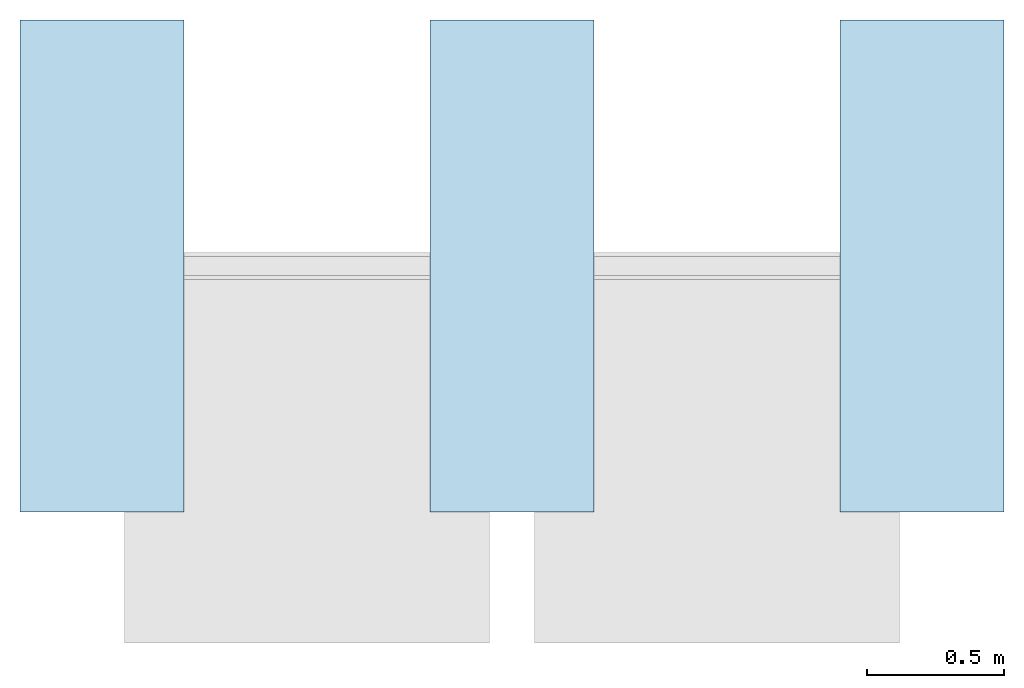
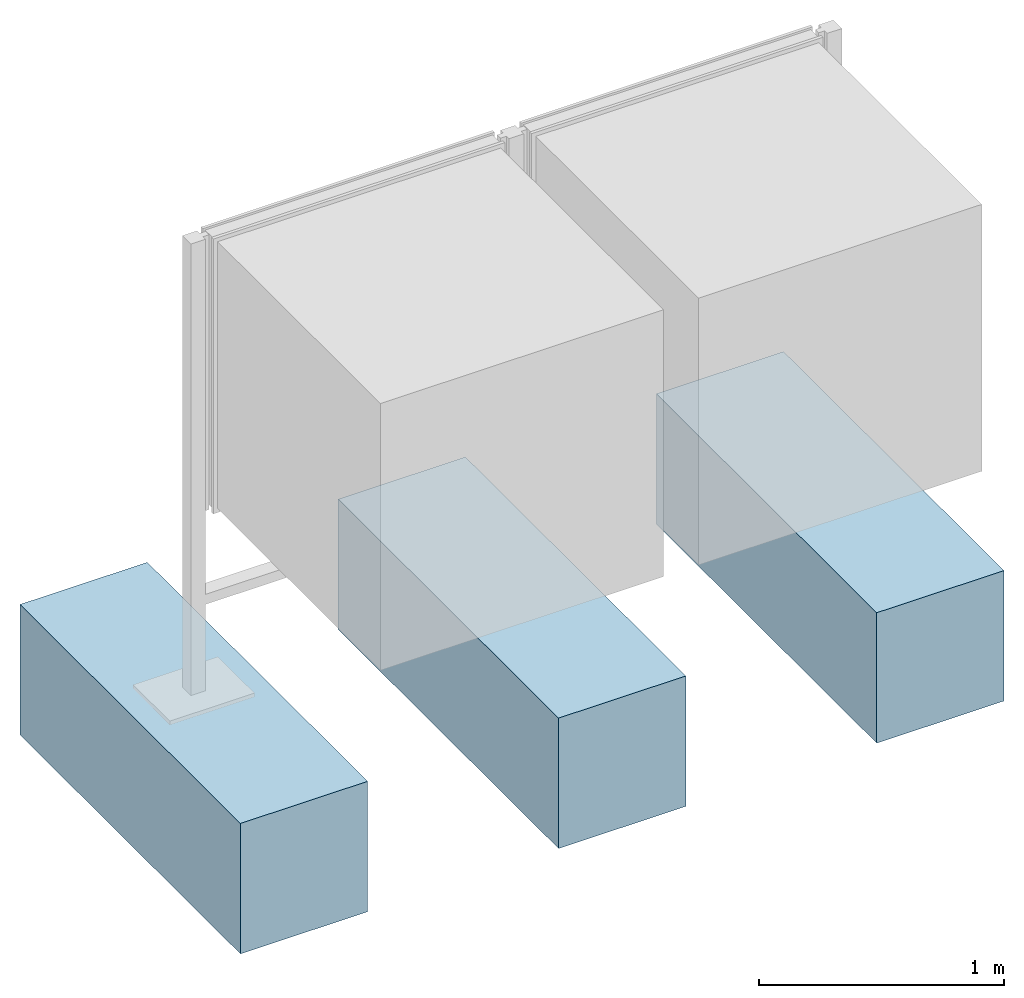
# One storey, incomplete: 3 slabs.
"""IFC4 building model written with IfcOpenShell, lengths in metres."""

from ifc_helpers import new_model, entity, si_unit, converted_unit, direction, frame, frame_2d, origin, origin_2d_with_axis, place, context, subcontext, project, spatial, rectangle, extrude, material, type_object, element, save


model = new_model("IFC4")

# Units and contexts
model_context = context("Model", 3, precision=1e-05, world=origin(), true_north=direction((6.123031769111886e-17, 1.0)))
body_context = subcontext(model_context, "Body", "Model", "MODEL_VIEW")
ifc_project = project(units=[si_unit("LENGTHUNIT", "METRE"), converted_unit("PLANEANGLEUNIT", "DEGREE", entity("IfcPlaneAngleMeasure", 0.017453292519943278), si_unit("PLANEANGLEUNIT", "RADIAN"), dimensions=[0, 0, 0, 0, 0, 0, 0]), si_unit("AREAUNIT", "SQUARE_METRE")], contexts=[model_context])

# Site, building, storey
site_placement = place(None, origin())
site = spatial("IfcSite", under=ifc_project, at=site_placement, Name="Default", CompositionType="ELEMENT")
building_placement = place(site_placement, origin())
building = spatial("IfcBuilding", under=site, at=building_placement, CompositionType="ELEMENT")
storey_placement = place(building_placement, origin())
storey = spatial("IfcBuildingStorey", under=building, at=storey_placement, Name="DB_Bezugshoehe_max_Bahnsteigkante", CompositionType="ELEMENT", Elevation=0.0)

# Slabs
ifc_material = material(Name="DB_Ortbeton", Category="DB_Beton")
slab_type = type_object("IfcSlabType", Name="DB_Vitrine_Fundament:DB_Vitrine_Fundament", PredefinedType="BASESLAB", material=ifc_material)
slab_1_placement = place(storey_placement, origin())
element("IfcSlab", 1, at=slab_1_placement, inside=storey, type_object=slab_type, Name="DB_Vitrine_Fundament:DB_Vitrine_Fundament", ObjectType="DB_Vitrine_Fundament:DB_Vitrine_Fundament", PredefinedType="BASESLAB", context=body_context, shape_type="SweptSolid", body=[
    extrude(rectangle(XDim=1.8, YDim=0.5999999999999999, at=origin_2d_with_axis()), frame((-0.0006257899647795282, 0.0, 0.04999999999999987), z_axis=(0.0, 0.0, 1.0), x_axis=(0.0, 1.0, 0.0)), (0.0, 0.0, 1.0), 0.5999999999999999),
    extrude(rectangle(XDim=0.5999999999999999, YDim=1.7999999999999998, at=origin_2d_with_axis()), frame((-0.0006257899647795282, 0.0, 0.0), z_axis=(0.0, 0.0, 1.0), x_axis=(-1.0, 0.0, 0.0)), (0.0, 0.0, 1.0), 0.04999999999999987),
])
slab_2_placement = place(storey_placement, origin())
element("IfcSlab", 2, at=slab_2_placement, inside=storey, type_object=slab_type, Name="DB_Vitrine_Fundament:DB_Vitrine_Fundament", ObjectType="DB_Vitrine_Fundament:DB_Vitrine_Fundament", PredefinedType="BASESLAB", context=body_context, shape_type="SweptSolid", body=[
    extrude(rectangle(XDim=1.8, YDim=0.5999999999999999, at=frame_2d((0.0, -8.326672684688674e-17), x_axis=(1.0, 0.0))), frame((1.4993742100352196, 0.0, 0.04999999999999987), z_axis=(0.0, 0.0, 1.0), x_axis=(0.0, 1.0, 0.0)), (0.0, 0.0, 1.0), 0.5999999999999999),
    extrude(rectangle(XDim=0.6000000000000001, YDim=1.7999999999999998, at=origin_2d_with_axis()), frame((1.4993742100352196, 0.0, 0.0), z_axis=(0.0, 0.0, 1.0), x_axis=(-1.0, 0.0, 0.0)), (0.0, 0.0, 1.0), 0.04999999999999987),
])
slab_3_placement = place(storey_placement, origin())
element("IfcSlab", 3, at=slab_3_placement, inside=storey, type_object=slab_type, Name="DB_Vitrine_Fundament:DB_Vitrine_Fundament", ObjectType="DB_Vitrine_Fundament:DB_Vitrine_Fundament", PredefinedType="BASESLAB", context=body_context, shape_type="SweptSolid", body=[
    extrude(rectangle(XDim=1.8, YDim=0.6000000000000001, at=origin_2d_with_axis()), frame((2.999374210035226, 0.0, 0.04999999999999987), z_axis=(0.0, 0.0, 1.0), x_axis=(0.0, 1.0, 0.0)), (0.0, 0.0, 1.0), 0.5999999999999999),
    extrude(rectangle(XDim=0.6000000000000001, YDim=1.7999999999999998, at=origin_2d_with_axis()), frame((2.999374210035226, 0.0, 0.0), z_axis=(0.0, 0.0, 1.0), x_axis=(-1.0, 0.0, 0.0)), (0.0, 0.0, 1.0), 0.04999999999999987),
])

save(model, "model.ifc")
